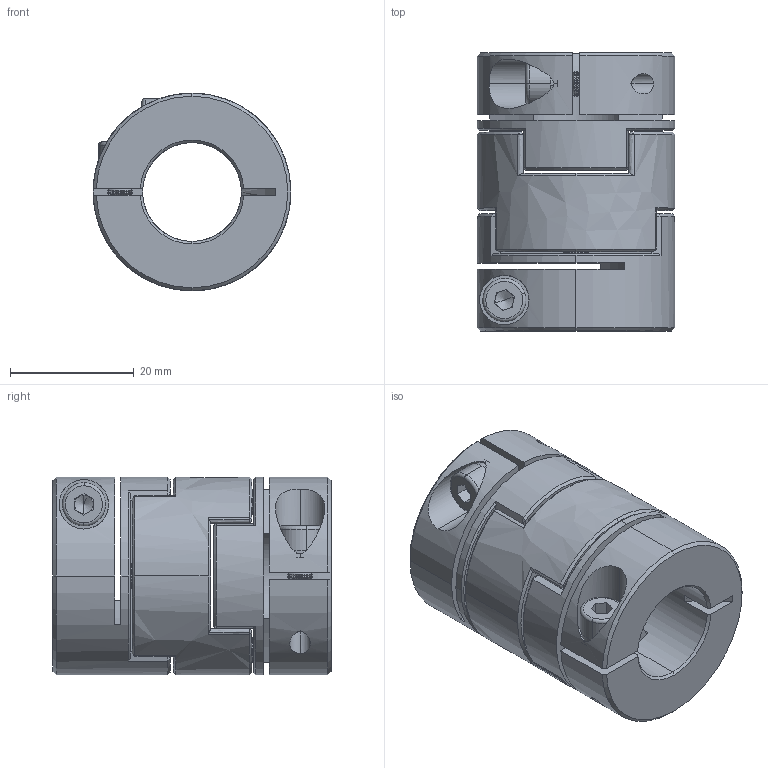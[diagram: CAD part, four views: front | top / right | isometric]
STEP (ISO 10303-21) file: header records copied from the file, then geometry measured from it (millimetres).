
FILE_DESCRIPTION (( 'STEP AP203' ), '1' );
FILE_NAME ('LZ-B-D32L45-16-16.STEP', '2021-10-29T06:49:04', ( '' ), ( '' ), 'SwSTEP 2.0', 'SolidWorks 2018', '' );
FILE_SCHEMA (( 'CONFIG_CONTROL_DESIGN' ));
Length unit declared in the file: millimetre
Products named in the file (1): LZ-B-D32L45-16-16
Bounding box: 32 x 45 x 32 mm (x, y, z)
Volume: 24965.6 mm3; surface area: 12862.2 mm2
Topology: 1 solids, 1 shells, 358 faces, 868 edges, 506 vertices
Faces by surface type: cone 118, cylinder 92, plane 86, bspline 54, torus 8
Entity records: 11273 total; most frequent: CARTESIAN_POINT 3251, ORIENTED_EDGE 1728, DIRECTION 1586, EDGE_CURVE 864, AXIS2_PLACEMENT_3D 621, VERTEX_POINT 506, EDGE_LOOP 382, ADVANCED_FACE 358
